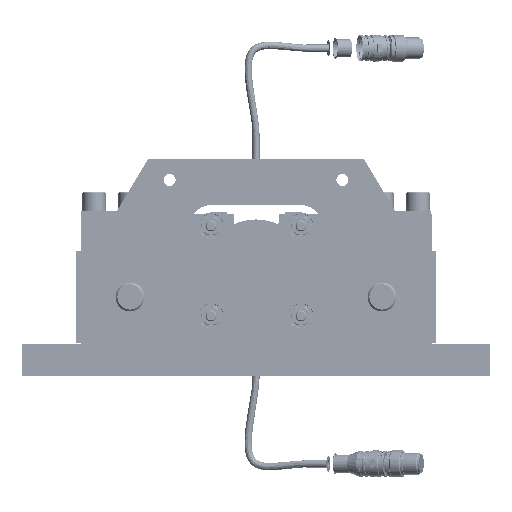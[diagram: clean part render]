
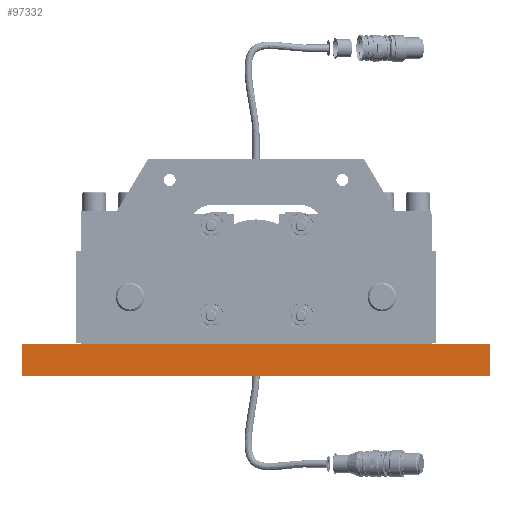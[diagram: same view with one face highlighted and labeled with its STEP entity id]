
A CAD part, front view. The second image highlights one B-rep face of the part: STEP entity #97332.
In plain terms, the highlighted planar face has unit normal (0, -1, 0).
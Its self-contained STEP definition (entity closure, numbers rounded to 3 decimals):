
#6042=PLANE('',#102996);
#9207=FACE_OUTER_BOUND('',#14670,.T.);
#14670=EDGE_LOOP('',(#62092,#62093,#62094,#62095));
#20785=LINE('',#135777,#27577);
#20818=LINE('',#136010,#27610);
#20821=LINE('',#136016,#27613);
#20822=LINE('',#136018,#27614);
#27577=VECTOR('',#111611,10.);
#27610=VECTOR('',#111880,10.);
#27613=VECTOR('',#111887,10.);
#27614=VECTOR('',#111890,10.);
#37914=VERTEX_POINT('',#135774);
#37915=VERTEX_POINT('',#135776);
#37996=VERTEX_POINT('',#136006);
#37998=VERTEX_POINT('',#136014);
#47494=EDGE_CURVE('',#37915,#37914,#20785,.T.);
#47605=EDGE_CURVE('',#37996,#37915,#20818,.T.);
#47608=EDGE_CURVE('',#37914,#37998,#20821,.T.);
#47609=EDGE_CURVE('',#37998,#37996,#20822,.T.);
#62092=ORIENTED_EDGE('',*,*,#47609,.T.);
#62093=ORIENTED_EDGE('',*,*,#47605,.T.);
#62094=ORIENTED_EDGE('',*,*,#47494,.T.);
#62095=ORIENTED_EDGE('',*,*,#47608,.T.);
#97332=ADVANCED_FACE('',(#9207),#6042,.T.);
#102996=AXIS2_PLACEMENT_3D('',#136017,#111888,#111889);
#111611=DIRECTION('',(1.,0.,0.));
#111880=DIRECTION('',(0.,0.,-1.));
#111887=DIRECTION('',(0.,0.,1.));
#111888=DIRECTION('center_axis',(0.,-1.,0.));
#111889=DIRECTION('ref_axis',(0.,0.,-1.));
#111890=DIRECTION('',(-1.,0.,0.));
#135774=CARTESIAN_POINT('',(130.,-69.85,-9.));
#135776=CARTESIAN_POINT('',(-130.,-69.85,-9.));
#135777=CARTESIAN_POINT('',(-130.,-69.85,-9.));
#136006=CARTESIAN_POINT('',(-130.,-69.85,9.));
#136010=CARTESIAN_POINT('',(-130.,-69.85,0.));
#136014=CARTESIAN_POINT('',(130.,-69.85,9.));
#136016=CARTESIAN_POINT('',(130.,-69.85,0.));
#136017=CARTESIAN_POINT('Origin',(130.,-69.85,0.));
#136018=CARTESIAN_POINT('',(-130.,-69.85,9.));
